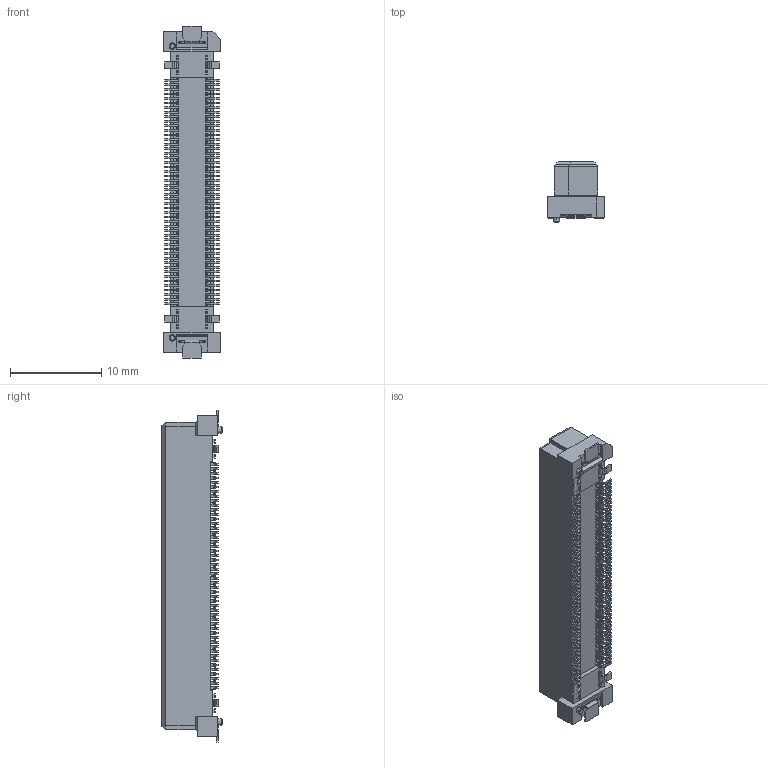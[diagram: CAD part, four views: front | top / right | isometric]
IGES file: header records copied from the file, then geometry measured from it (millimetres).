
Start section: Elysium IGES Interface
Global section: file name: 121HG:\その他\DT関連\DT_CADﾃﾞｰﾀ\DT_3DCAD(客先提出用)\プラグ\DT1XE(電源pin)\-8\DT11E-XXXS-8-T(WEB用)\P3E603_DT11E-100S-8-T.igs; native system: Creo Elements/Direct Modeling 20.6  25-Mar-2023; preprocessor: Creo Element/Direct IGES_3D V2.2; author: Unknown; organization: Unknown; date: 20240312.145800; units: millimetre
Bounding box: 6.2 x 6.63 x 36.4 mm (x, y, z)
Volume: 747 mm3; surface area: 1254.5 mm2
Topology: 1 solids, 1 shells, 4633 faces, 12602 edges, 8088 vertices
Faces by surface type: bspline 4633
